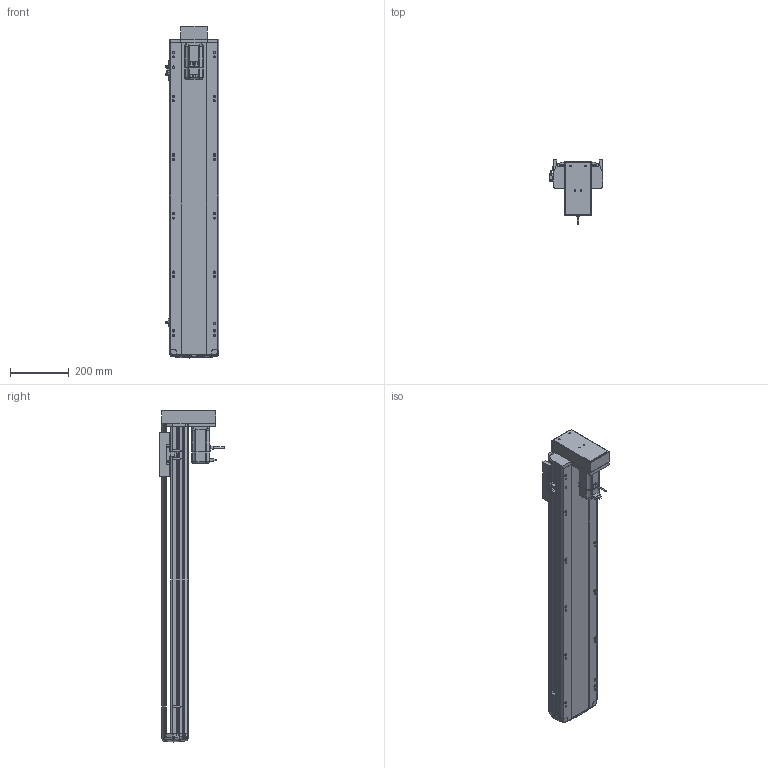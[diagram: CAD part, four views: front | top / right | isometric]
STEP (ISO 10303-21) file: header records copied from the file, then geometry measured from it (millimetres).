
FILE_DESCRIPTION (( 'STEP AP214' ), '1' );
FILE_NAME ('RTH17-XX-850-M-M40-C4.STEP', '2025-10-24T09:07:55', ( '' ), ( '' ), 'SwSTEP 2.0', 'SolidWorks 2018', '' );
FILE_SCHEMA (( 'AUTOMOTIVE_DESIGN' ));
Length unit declared in the file: millimetre
Products named in the file (10): N_RTH17-M-018盖子^RTH17-XX-XX-M-M40-C4（方程式）; N_RTH17-GY-001P^RTH17-XX-XX-M-M40-C4（方程式）; N_M40^RTH17-XX-XX-M-M40-C4（方程式）; N_RTH17-E-004丝杆螺母连接座^RTH17-XX-XX-M-M40-C4（方程式）; N_RTH17-M-007上盖^RTH17-XX-XX-M-M40-C4（方程式）; N_RTH17-M-011底座^RTH17-XX-XX-M-M40-C4（方程式）; RTH17-XX-850-M-M40-C4; N_RTH17-M-008-P40电机安装板下折^RTH17-XX-XX-M-M40-C4（方程式）; N_OMRON EE-SX672 換覜ん^RTH17-XX-XX-M-M40-C4ㄗ源最宒ㄘ; N_RTH-BL-012 感应片(外置)^RTH17-XX-XX-M-M40-C4（方程式）
Assembly tree (11 placements, depth 2):
  RTH17-XX-850-M-M40-C4
    N_RTH17-M-011底座^RTH17-XX-XX-M-M40-C4（方程式）
    N_RTH17-M-007上盖^RTH17-XX-XX-M-M40-C4（方程式）
    N_M40^RTH17-XX-XX-M-M40-C4（方程式）
    N_OMRON EE-SX672 換覜ん^RTH17-XX-XX-M-M40-C4ㄗ源最宒ㄘ  x3
    N_RTH-BL-012 感应片(外置)^RTH17-XX-XX-M-M40-C4（方程式）
    N_RTH17-M-008-P40电机安装板下折^RTH17-XX-XX-M-M40-C4（方程式）
    N_RTH17-M-018盖子^RTH17-XX-XX-M-M40-C4（方程式）
    N_RTH17-E-004丝杆螺母连接座^RTH17-XX-XX-M-M40-C4（方程式）
    N_RTH17-GY-001P^RTH17-XX-XX-M-M40-C4（方程式）
Bounding box: 183.5 x 219 x 1133.19 mm (x, y, z)
Volume: 8842763.1 mm3; surface area: 1259413.9 mm2
Topology: 10 solids, 12 shells, 1663 faces, 4644 edges, 3028 vertices
Faces by surface type: plane 832, cylinder 464, bspline 330, cone 28, torus 9
Entity records: 48672 total; most frequent: CARTESIAN_POINT 19660, ORIENTED_EDGE 6312, DIRECTION 5200, EDGE_CURVE 3160, VERTEX_POINT 2064, LINE 1774, VECTOR 1774, AXIS2_PLACEMENT_3D 1713
